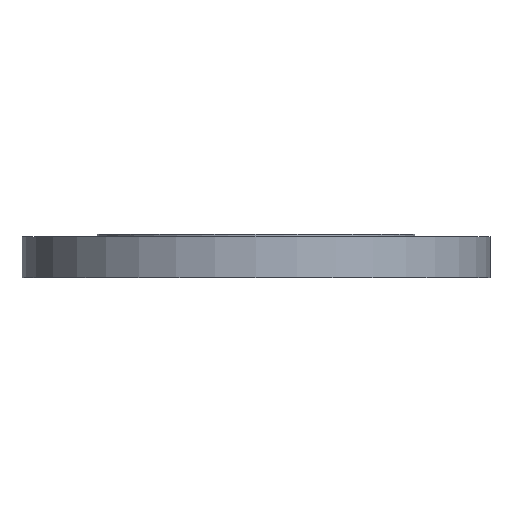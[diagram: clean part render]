
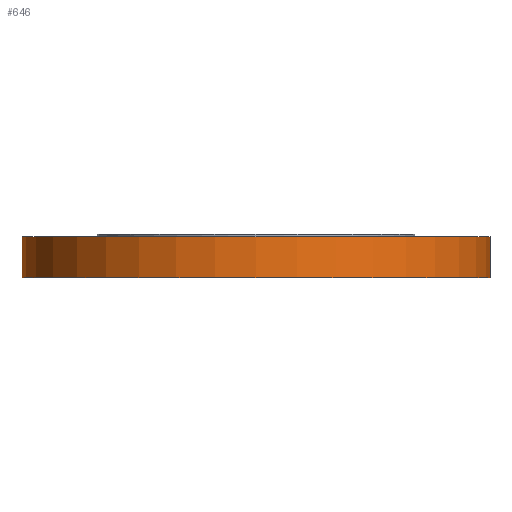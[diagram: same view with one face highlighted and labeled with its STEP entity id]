
A CAD part, front view. The second image highlights one B-rep face of the part: STEP entity #646.
In plain terms, the highlighted cylindrical face has radius 290 mm (diameter 580 mm), a partial arc.
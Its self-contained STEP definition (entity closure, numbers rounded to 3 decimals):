
#87 = EDGE_CURVE ( 'NONE', #1570, #1269, #489, .T. ) ;
#126 = CARTESIAN_POINT ( 'NONE',  ( 290., 0., -54. ) ) ;
#226 = CARTESIAN_POINT ( 'NONE',  ( -290., 0., -3. ) ) ;
#238 = VECTOR ( 'NONE', #608, 1000. ) ;
#321 = EDGE_CURVE ( 'NONE', #1321, #1453, #356, .T. ) ;
#356 = CIRCLE ( 'NONE', #370, 290. ) ;
#370 = AXIS2_PLACEMENT_3D ( 'NONE', #747, #746, #744 ) ;
#375 = CARTESIAN_POINT ( 'NONE',  ( 290., 0., -3. ) ) ;
#386 = CARTESIAN_POINT ( 'NONE',  ( -290., 0., -54. ) ) ;
#389 = EDGE_CURVE ( 'NONE', #1570, #1321, #727, .T. ) ;
#449 = VECTOR ( 'NONE', #724, 1000. ) ;
#489 = CIRCLE ( 'NONE', #492, 290. ) ;
#492 = AXIS2_PLACEMENT_3D ( 'NONE', #896, #895, #894 ) ;
#608 = DIRECTION ( 'NONE',  ( 0., 0., 1. ) ) ;
#609 = CARTESIAN_POINT ( 'NONE',  ( -290., 0., -135. ) ) ;
#611 = LINE ( 'NONE', #609, #238 ) ;
#634 = DIRECTION ( 'NONE',  ( 1., 0., 0. ) ) ;
#635 = DIRECTION ( 'NONE',  ( 0., 0., 1. ) ) ;
#636 = CARTESIAN_POINT ( 'NONE',  ( 0., 0., -135. ) ) ;
#638 = CYLINDRICAL_SURFACE ( 'NONE', #1216, 290. ) ;
#639 = FACE_OUTER_BOUND ( 'NONE', #1245, .T. ) ;
#646 = ADVANCED_FACE ( 'NONE', ( #639 ), #638, .T. ) ;
#724 = DIRECTION ( 'NONE',  ( 0., 0., 1. ) ) ;
#726 = CARTESIAN_POINT ( 'NONE',  ( 290., 0., -135. ) ) ;
#727 = LINE ( 'NONE', #726, #449 ) ;
#744 = DIRECTION ( 'NONE',  ( -1., 0., 0. ) ) ;
#746 = DIRECTION ( 'NONE',  ( 0., 0., -1. ) ) ;
#747 = CARTESIAN_POINT ( 'NONE',  ( 0., 0., -3. ) ) ;
#786 = EDGE_CURVE ( 'NONE', #1269, #1453, #611, .T. ) ;
#894 = DIRECTION ( 'NONE',  ( -1., 0., 0. ) ) ;
#895 = DIRECTION ( 'NONE',  ( 0., 0., -1. ) ) ;
#896 = CARTESIAN_POINT ( 'NONE',  ( 0., 0., -54. ) ) ;
#1216 = AXIS2_PLACEMENT_3D ( 'NONE', #636, #635, #634 ) ;
#1245 = EDGE_LOOP ( 'NONE', ( #1514, #1515, #1516, #1517 ) ) ;
#1269 = VERTEX_POINT ( 'NONE', #386 ) ;
#1321 = VERTEX_POINT ( 'NONE', #375 ) ;
#1453 = VERTEX_POINT ( 'NONE', #226 ) ;
#1514 = ORIENTED_EDGE ( 'NONE', *, *, #786, .F. ) ;
#1515 = ORIENTED_EDGE ( 'NONE', *, *, #87, .F. ) ;
#1516 = ORIENTED_EDGE ( 'NONE', *, *, #389, .T. ) ;
#1517 = ORIENTED_EDGE ( 'NONE', *, *, #321, .T. ) ;
#1570 = VERTEX_POINT ( 'NONE', #126 ) ;
